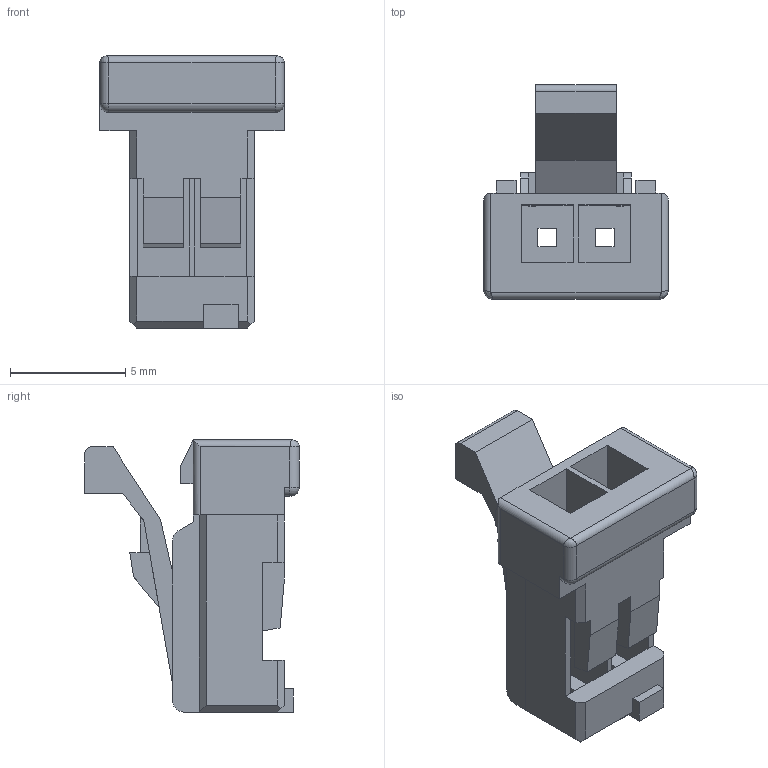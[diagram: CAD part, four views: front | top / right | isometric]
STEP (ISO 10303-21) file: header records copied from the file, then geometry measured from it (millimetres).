
FILE_DESCRIPTION(('CATIA V5 STEP Exchange'),'2;1');
FILE_NAME('Z:\3D文件\小黄（备用文件夹）\条形连接器-小黄\ZHC\NY\HC-ZHC-2Y-05（2.50 单排 孔座-HCTL）.stp','2025-06-03T03:57:32+00:00',('none'),('none'),'CATIA Version 5 Release 20 GA (IN-10)','CATIA V5 STEP AP203','none');
FILE_SCHEMA(('CONFIG_CONTROL_DESIGN'));
Length unit declared in the file: millimetre
Products named in the file (1): Part2
Bounding box: 8 x 9.3 x 11.8 mm (x, y, z)
Volume: 201.7 mm3; surface area: 662.4 mm2
Topology: 1 solids, 1 shells, 145 faces, 403 edges, 254 vertices
Faces by surface type: plane 125, cylinder 16, bspline 2, sphere 2
Entity records: 4981 total; most frequent: CARTESIAN_POINT 1471, ORIENTED_EDGE 798, DIRECTION 581, EDGE_CURVE 399, VECTOR 361, LINE 361, VERTEX_POINT 254, EDGE_LOOP 151
